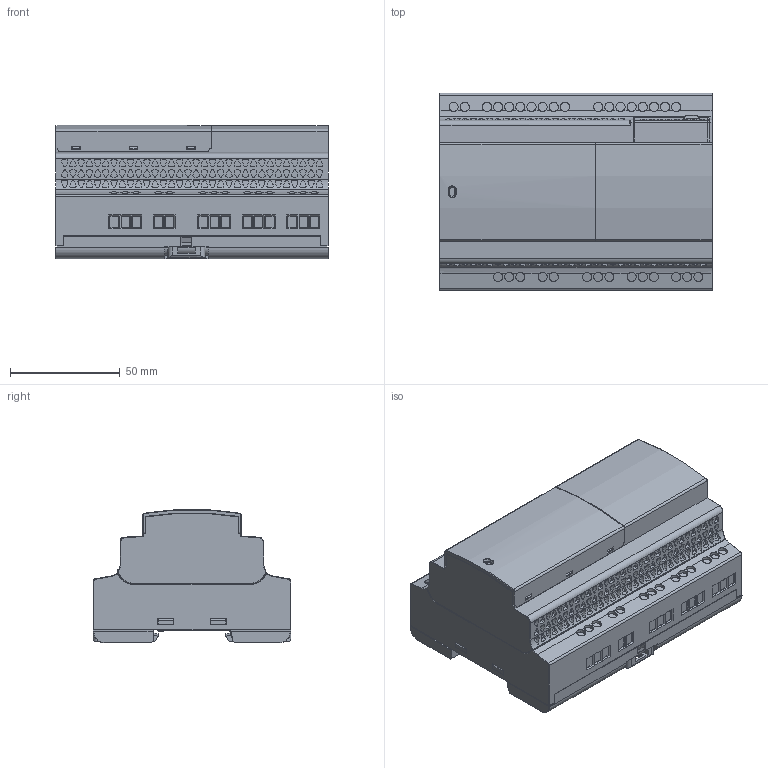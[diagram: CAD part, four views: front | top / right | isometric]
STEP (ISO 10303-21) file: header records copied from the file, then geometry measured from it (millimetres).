
FILE_DESCRIPTION((''),'2;1');
FILE_NAME('ENV_BLIND','2018-04-09T',('lpadby2'),('CROUZET-AUTOMATISMES'),'CREO PARAMETRIC BY PTC INC, 2017170','CREO PARAMETRIC BY PTC INC, 2017170','');
FILE_SCHEMA(('AP203_CONFIGURATION_CONTROLLED_3D_DESIGN_OF_MECHANICAL_PARTS_AND_ASSEMBLIES_MIM_LF { 1 0 10303 403 2 1 2 }'));
Products named in the file (1): ENV_BLIND
Bounding box: 124.6 x 90.1 x 61.05 mm (x, y, z)
Volume: 522521.5 mm3; surface area: 57853.3 mm2
Topology: 1 solids, 1 shells, 2643 faces, 6878 edges, 4468 vertices
Faces by surface type: cylinder 1295, plane 1270, torus 55, bspline 13, cone 8, sphere 2
Entity records: 109408 total; most frequent: CARTESIAN_POINT 23969, ORIENTED_EDGE 13756, DIRECTION 12906, PRESENTATION_STYLE_ASSIGNMENT 6885, STYLED_ITEM 6885, CURVE_STYLE 6884, EDGE_CURVE 6878, VERTEX_POINT 4468
